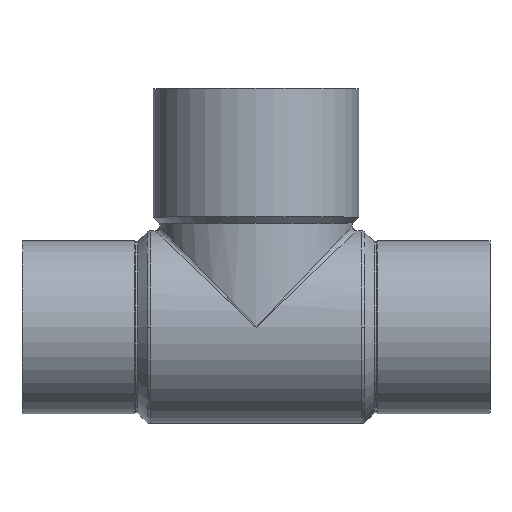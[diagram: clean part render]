
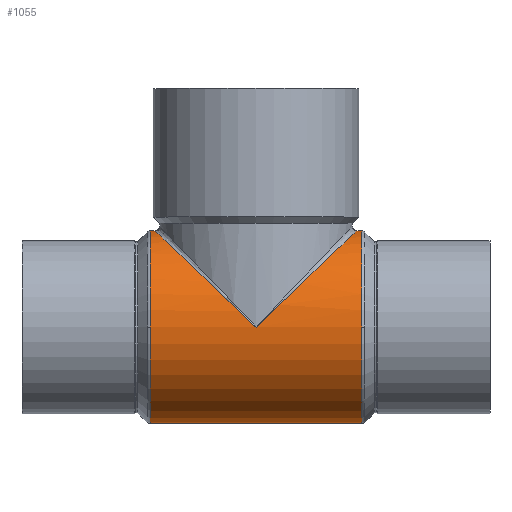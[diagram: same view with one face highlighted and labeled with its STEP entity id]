
A CAD part, top view. The second image highlights one B-rep face of the part: STEP entity #1055.
In plain terms, the highlighted cylindrical face has radius 21 mm (diameter 42 mm), a partial arc.
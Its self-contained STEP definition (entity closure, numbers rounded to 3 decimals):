
#628=CARTESIAN_POINT('',(0.0,0.0,21.0));
#629=VERTEX_POINT('',#628);
#913=CARTESIAN_POINT('',(-23.022,0.,21.0));
#914=VERTEX_POINT('',#913);
#922=CARTESIAN_POINT('',(-23.022,21.0,0.));
#923=VERTEX_POINT('',#922);
#924=CARTESIAN_POINT('',(-23.022,0.0,0.0));
#925=DIRECTION('',(-1.0,0.0,0.0));
#926=DIRECTION('',(0.0,-1.0,0.0));
#927=AXIS2_PLACEMENT_3D('',#924,#925,#926);
#928=CIRCLE('',#927,21.0);
#929=EDGE_CURVE('',#914,#923,#928,.T.);
#982=CARTESIAN_POINT('',(0.,0.0,0.0));
#983=DIRECTION('',(1.0,0.0,0.0));
#984=DIRECTION('',(0.0,1.0,0.0));
#985=AXIS2_PLACEMENT_3D('',#982,#983,#984);
#986=CYLINDRICAL_SURFACE('',#985,21.0);
#987=CARTESIAN_POINT('',(-22.,21.0,0.));
#988=VERTEX_POINT('',#987);
#989=CARTESIAN_POINT('',(-23.022,21.0,0.));
#990=DIRECTION('',(1.0,0.0,0.0));
#991=VECTOR('',#990,1.022);
#992=LINE('',#989,#991);
#993=EDGE_CURVE('',#923,#988,#992,.T.);
#994=ORIENTED_EDGE('',*,*,#993,.F.);
#995=ORIENTED_EDGE('',*,*,#929,.F.);
#996=CARTESIAN_POINT('',(-23.022,-21.0,0.));
#997=VERTEX_POINT('',#996);
#998=CARTESIAN_POINT('',(-23.022,0.0,0.0));
#999=DIRECTION('',(-1.0,0.0,0.0));
#1000=DIRECTION('',(0.0,-1.0,0.0));
#1001=AXIS2_PLACEMENT_3D('',#998,#999,#1000);
#1002=CIRCLE('',#1001,21.0);
#1003=EDGE_CURVE('',#997,#914,#1002,.T.);
#1004=ORIENTED_EDGE('',*,*,#1003,.F.);
#1005=CARTESIAN_POINT('',(23.022,-21.0,0.));
#1006=VERTEX_POINT('',#1005);
#1007=CARTESIAN_POINT('',(23.022,-21.0,0.));
#1008=DIRECTION('',(-1.0,0.0,0.0));
#1009=VECTOR('',#1008,46.045);
#1010=LINE('',#1007,#1009);
#1011=EDGE_CURVE('',#1006,#997,#1010,.T.);
#1012=ORIENTED_EDGE('',*,*,#1011,.F.);
#1013=CARTESIAN_POINT('',(23.022,0.,21.0));
#1014=VERTEX_POINT('',#1013);
#1015=CARTESIAN_POINT('',(23.022,0.0,0.0));
#1016=DIRECTION('',(1.0,0.0,0.0));
#1017=DIRECTION('',(0.0,-1.0,0.0));
#1018=AXIS2_PLACEMENT_3D('',#1015,#1016,#1017);
#1019=CIRCLE('',#1018,21.0);
#1020=EDGE_CURVE('',#1014,#1006,#1019,.T.);
#1021=ORIENTED_EDGE('',*,*,#1020,.F.);
#1022=CARTESIAN_POINT('',(23.022,21.0,0.0));
#1023=VERTEX_POINT('',#1022);
#1024=CARTESIAN_POINT('',(23.022,0.0,0.0));
#1025=DIRECTION('',(1.0,0.0,0.0));
#1026=DIRECTION('',(0.0,-1.0,0.0));
#1027=AXIS2_PLACEMENT_3D('',#1024,#1025,#1026);
#1028=CIRCLE('',#1027,21.0);
#1029=EDGE_CURVE('',#1023,#1014,#1028,.T.);
#1030=ORIENTED_EDGE('',*,*,#1029,.F.);
#1031=CARTESIAN_POINT('',(22.,21.0,0.));
#1032=VERTEX_POINT('',#1031);
#1033=CARTESIAN_POINT('',(22.,21.0,0.));
#1034=DIRECTION('',(1.0,0.0,0.0));
#1035=VECTOR('',#1034,1.022);
#1036=LINE('',#1033,#1035);
#1037=EDGE_CURVE('',#1032,#1023,#1036,.T.);
#1038=ORIENTED_EDGE('',*,*,#1037,.F.);
#1039=CARTESIAN_POINT('',(0.0,0.0,0.0));
#1040=DIRECTION('',(-0.69,0.723,0.0));
#1041=DIRECTION('',(0.723,0.69,0.0));
#1042=AXIS2_PLACEMENT_3D('',#1039,#1040,#1041);
#1043=ELLIPSE('',#1042,30.414,21.);
#1044=EDGE_CURVE('',#629,#1032,#1043,.T.);
#1045=ORIENTED_EDGE('',*,*,#1044,.F.);
#1046=CARTESIAN_POINT('',(0.0,0.0,0.0));
#1047=DIRECTION('',(0.69,0.723,0.0));
#1048=DIRECTION('',(-0.723,0.69,0.0));
#1049=AXIS2_PLACEMENT_3D('',#1046,#1047,#1048);
#1050=ELLIPSE('',#1049,30.414,21.);
#1051=EDGE_CURVE('',#988,#629,#1050,.T.);
#1052=ORIENTED_EDGE('',*,*,#1051,.F.);
#1053=EDGE_LOOP('',(#994,#995,#1004,#1012,#1021,#1030,#1038,#1045,#1052));
#1054=FACE_OUTER_BOUND('',#1053,.T.);
#1055=ADVANCED_FACE('',(#1054),#986,.T.);
